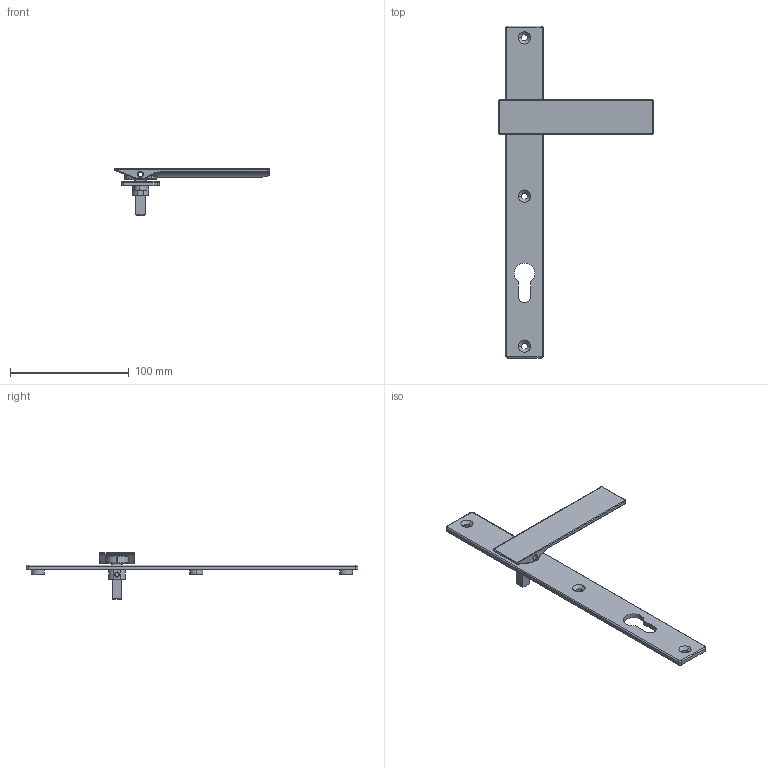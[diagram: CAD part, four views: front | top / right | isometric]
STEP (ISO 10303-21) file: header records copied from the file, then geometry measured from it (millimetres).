
FILE_DESCRIPTION (( 'STEP AP203' ), '1' );
FILE_NAME ('TPL-SS-002-25-B 23Apr2026.STEP', '2026-04-24T00:12:55', ( '' ), ( '' ), 'SwSTEP 2.0', 'SolidWorks 2023', '' );
FILE_SCHEMA (( 'CONFIG_CONTROL_DESIGN' ));
Length unit declared in the file: millimetre
Products named in the file (6): Copy of LKC-506 Swing handle SS - simplified^TPL-SS-002 22Apr2026; Copy of LKC-586 Spindle square 8mm with M4 hole - simplified^TPL-SS-002 22Apr2026_25mm; Copy of Escutcheon plate keyed internal 280mm - simplified^TPL-SS-002 22Apr2026; TPL-SS-002-25-B 23Apr2026; Copy of LKC-584 Pivot body zinc - simplified^TPL-SS-002 22Apr2026; Copy of LKC-585 Rotator body zinc - simplified^TPL-SS-002 22Apr2026
Assembly tree (5 placements, depth 2):
  TPL-SS-002-25-B 23Apr2026
    Copy of Escutcheon plate keyed internal 280mm - simplified^TPL-SS-002 22Apr2026
    Copy of LKC-586 Spindle square 8mm with M4 hole - simplified^TPL-SS-002 22Apr2026_25mm
    Copy of LKC-584 Pivot body zinc - simplified^TPL-SS-002 22Apr2026
    Copy of LKC-585 Rotator body zinc - simplified^TPL-SS-002 22Apr2026
    Copy of LKC-506 Swing handle SS - simplified^TPL-SS-002 22Apr2026
Bounding box: 130 x 280 x 39.55 mm (x, y, z)
Volume: 58744.9 mm3; surface area: 33785.9 mm2
Topology: 5 solids, 5 shells, 298 faces, 712 edges, 430 vertices
Faces by surface type: cylinder 113, plane 81, bspline 44, torus 36, cone 22, sphere 2
Entity records: 10250 total; most frequent: CARTESIAN_POINT 2934, ORIENTED_EDGE 1420, DIRECTION 1411, EDGE_CURVE 710, AXIS2_PLACEMENT_3D 559, VERTEX_POINT 430, EDGE_LOOP 332, FACE_OUTER_BOUND 298
